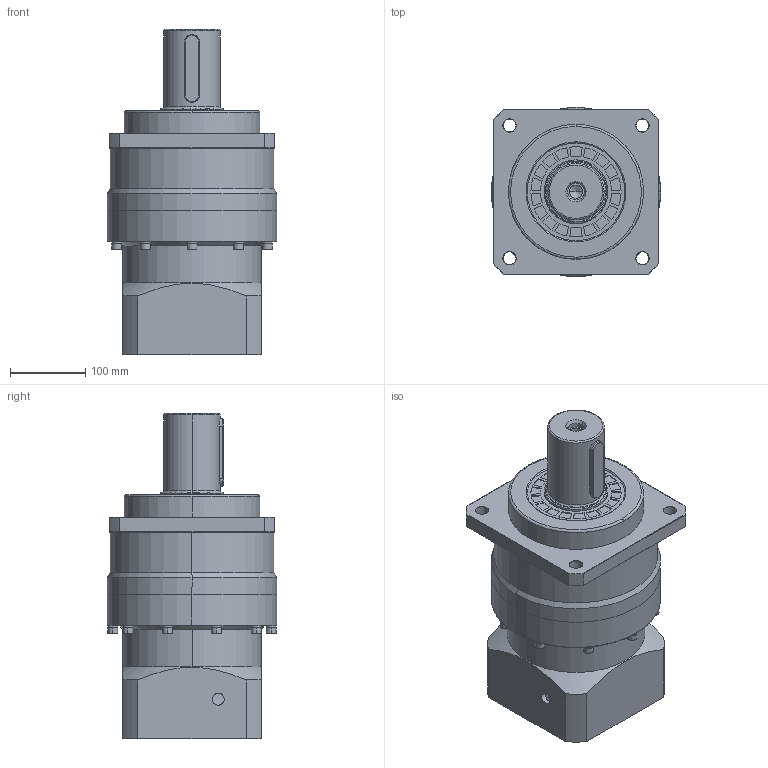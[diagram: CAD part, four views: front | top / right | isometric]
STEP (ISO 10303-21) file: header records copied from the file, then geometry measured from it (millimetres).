
FILE_DESCRIPTION (( 'STEP AP214' ), '1' );
FILE_NAME ('VRB220-L2-42-114.3-200-M12-116.STEP', '2019-09-03T07:05:13', ( '微软用户' ), ( '微软中国' ), 'SwSTEP 2.0', 'SolidWorks 2014', '' );
FILE_SCHEMA (( 'AUTOMOTIVE_DESIGN' ));
Length unit declared in the file: millimetre
Products named in the file (2): VRB220-L2-42-114.3-200-M12-116
Bounding box: 225.5 x 225.5 x 433 mm (x, y, z)
Volume: 11003309 mm3; surface area: 529934.3 mm2
Topology: 2 solids, 2 shells, 1216 faces, 3219 edges, 2100 vertices
Faces by surface type: plane 847, cylinder 189, bspline 115, cone 61, torus 4
Entity records: 47120 total; most frequent: CARTESIAN_POINT 10581, ORIENTED_EDGE 6416, DIRECTION 5682, EDGE_CURVE 3208, LINE 2436, VECTOR 2436, VERTEX_POINT 2100, AXIS2_PLACEMENT_3D 1623
